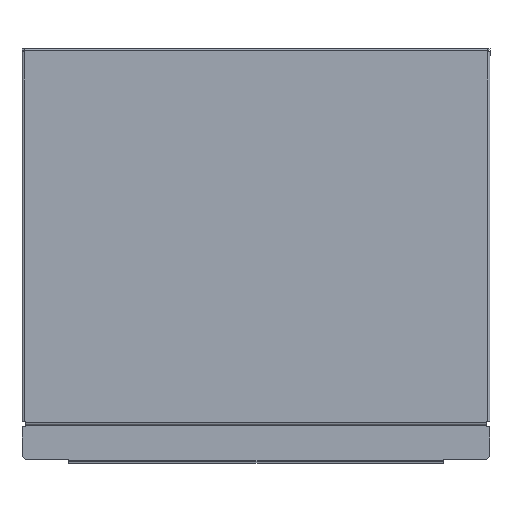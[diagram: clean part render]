
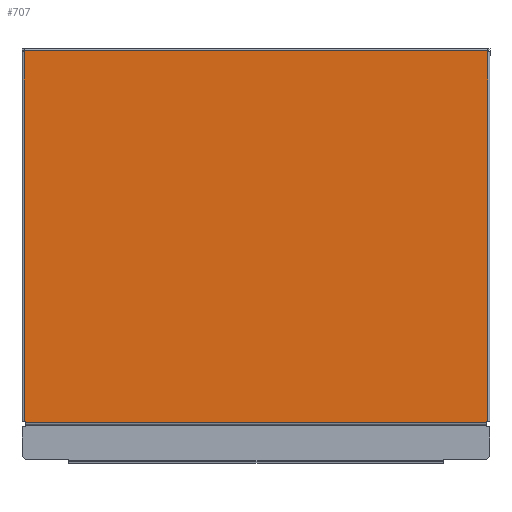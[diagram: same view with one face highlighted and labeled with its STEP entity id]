
A CAD part, front view. The second image highlights one B-rep face of the part: STEP entity #707.
In plain terms, the highlighted planar face has unit normal (0, -1, 0).
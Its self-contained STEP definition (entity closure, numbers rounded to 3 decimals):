
#73 = VERTEX_POINT ( 'NONE', #478 ) ;
#89 = DIRECTION ( 'NONE',  ( 1., 0., 0. ) ) ;
#90 = DIRECTION ( 'NONE',  ( 0., -1., 0. ) ) ;
#92 = CARTESIAN_POINT ( 'NONE',  ( -105., -6., 17. ) ) ;
#93 = PLANE ( 'NONE',  #1248 ) ;
#94 = VERTEX_POINT ( 'NONE', #469 ) ;
#100 = VERTEX_POINT ( 'NONE', #467 ) ;
#133 = VERTEX_POINT ( 'NONE', #456 ) ;
#152 = VERTEX_POINT ( 'NONE', #451 ) ;
#160 = VERTEX_POINT ( 'NONE', #448 ) ;
#351 = CARTESIAN_POINT ( 'NONE',  ( -104., -6., 184. ) ) ;
#363 = CARTESIAN_POINT ( 'NONE',  ( -103.5, -6., 17. ) ) ;
#366 = CARTESIAN_POINT ( 'NONE',  ( 103.5, -6., 17. ) ) ;
#392 = CARTESIAN_POINT ( 'NONE',  ( -104., -6., 183.5 ) ) ;
#448 = CARTESIAN_POINT ( 'NONE',  ( 104., -6., 184. ) ) ;
#451 = CARTESIAN_POINT ( 'NONE',  ( 104., -6., 183.5 ) ) ;
#456 = CARTESIAN_POINT ( 'NONE',  ( -103.5, -6., 17.5 ) ) ;
#467 = CARTESIAN_POINT ( 'NONE',  ( 103.5, -6., 17.5 ) ) ;
#469 = CARTESIAN_POINT ( 'NONE',  ( -104., -6., 17.5 ) ) ;
#478 = CARTESIAN_POINT ( 'NONE',  ( 104., -6., 17.5 ) ) ;
#524 = VERTEX_POINT ( 'NONE', #392 ) ;
#549 = VERTEX_POINT ( 'NONE', #366 ) ;
#551 = VERTEX_POINT ( 'NONE', #363 ) ;
#561 = VERTEX_POINT ( 'NONE', #351 ) ;
#707 = ADVANCED_FACE ( 'NONE', ( #2016 ), #93, .T. ) ;
#907 = EDGE_LOOP ( 'NONE', ( #1920, #1919, #1918, #1917, #1916, #1915, #1914, #1913, #1912, #1911 ) ) ;
#1061 = DIRECTION ( 'NONE',  ( 0., 0., -1. ) ) ;
#1064 = CARTESIAN_POINT ( 'NONE',  ( -104., -6., 202.385 ) ) ;
#1118 = DIRECTION ( 'NONE',  ( 1., 0., 0. ) ) ;
#1120 = CARTESIAN_POINT ( 'NONE',  ( -105., -6., 17.5 ) ) ;
#1125 = DIRECTION ( 'NONE',  ( 0., 0., -1. ) ) ;
#1126 = CARTESIAN_POINT ( 'NONE',  ( -103.5, -6., 17.5 ) ) ;
#1131 = DIRECTION ( 'NONE',  ( 1., 0., 0. ) ) ;
#1132 = CARTESIAN_POINT ( 'NONE',  ( -105., -6., 17. ) ) ;
#1190 = EDGE_CURVE ( 'NONE', #561, #524, #2215, .T. ) ;
#1191 = EDGE_CURVE ( 'NONE', #561, #160, #2217, .T. ) ;
#1192 = EDGE_CURVE ( 'NONE', #160, #152, #2219, .T. ) ;
#1193 = EDGE_CURVE ( 'NONE', #152, #73, #2221, .T. ) ;
#1194 = EDGE_CURVE ( 'NONE', #100, #73, #2223, .T. ) ;
#1195 = EDGE_CURVE ( 'NONE', #549, #100, #2225, .T. ) ;
#1196 = EDGE_CURVE ( 'NONE', #551, #549, #2227, .T. ) ;
#1197 = EDGE_CURVE ( 'NONE', #133, #551, #2229, .T. ) ;
#1198 = EDGE_CURVE ( 'NONE', #94, #133, #2231, .T. ) ;
#1205 = EDGE_CURVE ( 'NONE', #524, #94, #2241, .T. ) ;
#1248 = AXIS2_PLACEMENT_3D ( 'NONE', #92, #90, #89 ) ;
#1352 = DIRECTION ( 'NONE',  ( 0., 0., 1. ) ) ;
#1353 = CARTESIAN_POINT ( 'NONE',  ( 103.5, -6., 15.3 ) ) ;
#1354 = DIRECTION ( 'NONE',  ( 1., 0., 0. ) ) ;
#1356 = CARTESIAN_POINT ( 'NONE',  ( 103.5, -6., 17.5 ) ) ;
#1357 = DIRECTION ( 'NONE',  ( 0., 0., -1. ) ) ;
#1358 = CARTESIAN_POINT ( 'NONE',  ( 104., -6., 202.385 ) ) ;
#1360 = DIRECTION ( 'NONE',  ( 0., 0., -1. ) ) ;
#1361 = CARTESIAN_POINT ( 'NONE',  ( 104., -6., 202.385 ) ) ;
#1362 = DIRECTION ( 'NONE',  ( 1., 0., 0. ) ) ;
#1364 = CARTESIAN_POINT ( 'NONE',  ( -105., -6., 184. ) ) ;
#1365 = DIRECTION ( 'NONE',  ( 0., 0., -1. ) ) ;
#1367 = CARTESIAN_POINT ( 'NONE',  ( -104., -6., 202.385 ) ) ;
#1911 = ORIENTED_EDGE ( 'NONE', *, *, #1190, .T. ) ;
#1912 = ORIENTED_EDGE ( 'NONE', *, *, #1191, .F. ) ;
#1913 = ORIENTED_EDGE ( 'NONE', *, *, #1192, .F. ) ;
#1914 = ORIENTED_EDGE ( 'NONE', *, *, #1193, .F. ) ;
#1915 = ORIENTED_EDGE ( 'NONE', *, *, #1194, .T. ) ;
#1916 = ORIENTED_EDGE ( 'NONE', *, *, #1195, .T. ) ;
#1917 = ORIENTED_EDGE ( 'NONE', *, *, #1196, .T. ) ;
#1918 = ORIENTED_EDGE ( 'NONE', *, *, #1197, .T. ) ;
#1919 = ORIENTED_EDGE ( 'NONE', *, *, #1198, .T. ) ;
#1920 = ORIENTED_EDGE ( 'NONE', *, *, #1205, .T. ) ;
#2016 = FACE_OUTER_BOUND ( 'NONE', #907, .T. ) ;
#2215 = LINE ( 'NONE', #1367, #2216 ) ;
#2216 = VECTOR ( 'NONE', #1365, 1000. ) ;
#2217 = LINE ( 'NONE', #1364, #2218 ) ;
#2218 = VECTOR ( 'NONE', #1362, 1000. ) ;
#2219 = LINE ( 'NONE', #1361, #2220 ) ;
#2220 = VECTOR ( 'NONE', #1360, 1000. ) ;
#2221 = LINE ( 'NONE', #1358, #2222 ) ;
#2222 = VECTOR ( 'NONE', #1357, 1000. ) ;
#2223 = LINE ( 'NONE', #1356, #2224 ) ;
#2224 = VECTOR ( 'NONE', #1354, 1000. ) ;
#2225 = LINE ( 'NONE', #1353, #2226 ) ;
#2226 = VECTOR ( 'NONE', #1352, 1000. ) ;
#2227 = LINE ( 'NONE', #1132, #2228 ) ;
#2228 = VECTOR ( 'NONE', #1131, 1000. ) ;
#2229 = LINE ( 'NONE', #1126, #2230 ) ;
#2230 = VECTOR ( 'NONE', #1125, 1000. ) ;
#2231 = LINE ( 'NONE', #1120, #2232 ) ;
#2232 = VECTOR ( 'NONE', #1118, 1000. ) ;
#2241 = LINE ( 'NONE', #1064, #2243 ) ;
#2243 = VECTOR ( 'NONE', #1061, 1000. ) ;
